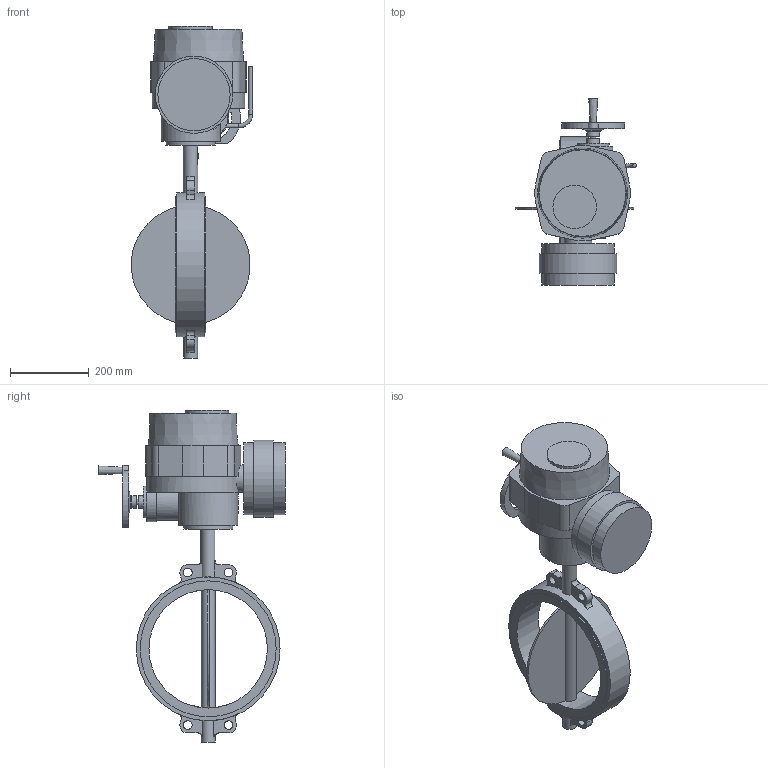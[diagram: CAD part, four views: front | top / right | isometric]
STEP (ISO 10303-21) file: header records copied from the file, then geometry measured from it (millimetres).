
FILE_DESCRIPTION(('STEP AP203'), '1');
FILE_NAME('青蜮铕 017W.Y_DN300_PN10_QT.A 050', '', ('UNSPECIFIED'), ('UNSPECIFIED'), 'ASCON STEP Converter 1.6', 'ASCON Math Kernel', '');
FILE_SCHEMA(('CONFIG_CONTROL_DESIGN'));
Length unit declared in the file: millimetre
Bounding box: 307.2 x 472 x 841 mm (x, y, z)
Volume: 17890330.3 mm3; surface area: 912270.2 mm2
Topology: 1 solids, 1 shells, 186 faces, 438 edges, 287 vertices
Faces by surface type: plane 102, cylinder 76, torus 5, cone 3
Full cylindrical faces by diameter (mm): 6.7 x8, 10 x2, 12 x4, 16 x1, 22 x4, 32 x2, 35 x3, 37 x1, 70 x1, 80 x1, 100 x1, 110 x1, 125 x1, 150 x1, 183 x2, 196 x1, 300 x1, 344.2 x2, 364.2 x1
Entity records: 8470 total; most frequent: CARTESIAN_POINT 2653, DIRECTION 937, ORIENTED_EDGE 792, EDGE_CURVE 396, AXIS2_PLACEMENT_3D 384, VERTEX_POINT 287, EDGE_LOOP 279, FACE_BOUND 205
